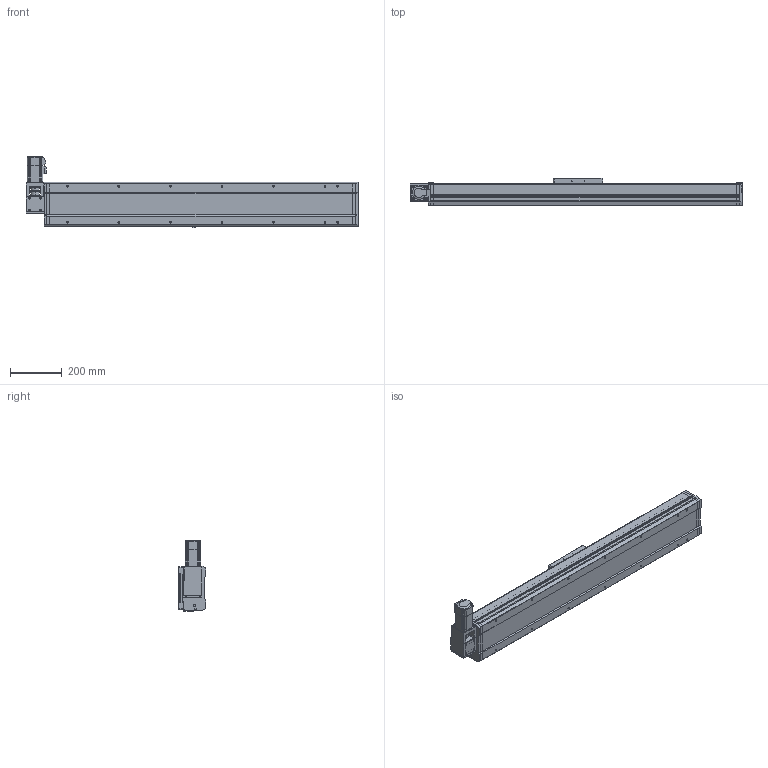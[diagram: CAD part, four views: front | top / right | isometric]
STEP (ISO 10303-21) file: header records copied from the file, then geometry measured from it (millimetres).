
FILE_DESCRIPTION((''),'2;1');
FILE_NAME('170-TZJ3FL-S900_ASM','2015-12-04T',('lenovo'),(''),'PRO/ENGINEER BY PARAMETRIC TECHNOLOGY CORPORATION, 2010280','PRO/ENGINEER BY PARAMETRIC TECHNOLOGY CORPORATION, 2010280','');
FILE_SCHEMA(('CONFIG_CONTROL_DESIGN'));
Length unit declared in the file: millimetre
Products named in the file (5): 170-TJFL-DZ; 170-HK; 170-HDB-01; 170-TZJ3FL-DJZ; 170-TZJ3FL-S900_ASM
Assembly tree (4 placements, depth 2):
  170-TZJ3FL-S900_ASM
    170-TJFL-DZ
    170-HK
    170-HDB-01
    170-TZJ3FL-DJZ
Bounding box: 1289 x 107 x 278.5 mm (x, y, z)
Volume: 9724550.8 mm3; surface area: 1489429 mm2
Topology: 6 solids, 30 shells, 1486 faces, 4033 edges, 2689 vertices
Faces by surface type: plane 794, cylinder 551, cone 113, torus 28
Entity records: 47579 total; most frequent: CARTESIAN_POINT 8491, DIRECTION 8356, ORIENTED_EDGE 8066, EDGE_CURVE 4033, AXIS2_PLACEMENT_3D 2870, VERTEX_POINT 2689, VECTOR 2616, LINE 2616
